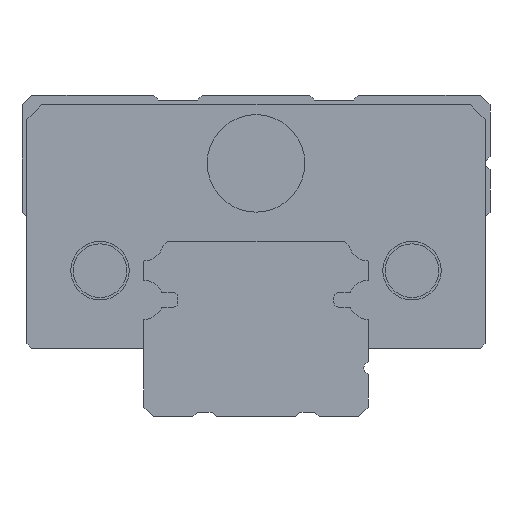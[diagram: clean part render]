
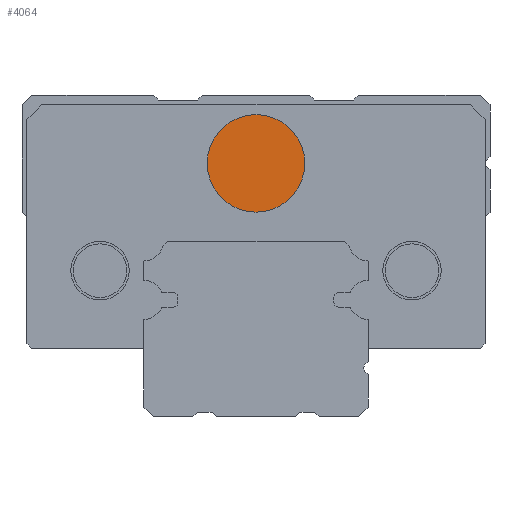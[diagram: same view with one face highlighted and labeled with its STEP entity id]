
A CAD part, left-side view. The second image highlights one B-rep face of the part: STEP entity #4064.
In plain terms, the highlighted planar face has unit normal (-1, 0, 0).
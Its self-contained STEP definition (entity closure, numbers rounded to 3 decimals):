
#4033=CARTESIAN_POINT('',(153.36,5.,26.0));
#4034=VERTEX_POINT('',#4033);
#4035=CARTESIAN_POINT('',(153.36,0.0,26.0));
#4036=DIRECTION('',(-1.0,0.0,0.0));
#4037=DIRECTION('',(0.0,-1.0,0.0));
#4038=AXIS2_PLACEMENT_3D('',#4035,#4036,#4037);
#4039=CIRCLE('',#4038,5.);
#4040=EDGE_CURVE('',#4034,#4034,#4039,.T.);
#4056=CARTESIAN_POINT('',(153.36,0.0,26.0));
#4057=DIRECTION('',(-1.0,0.0,0.0));
#4058=DIRECTION('',(0.0,0.0,1.0));
#4059=AXIS2_PLACEMENT_3D('',#4056,#4057,#4058);
#4060=PLANE('',#4059);
#4061=ORIENTED_EDGE('',*,*,#4040,.T.);
#4062=EDGE_LOOP('',(#4061));
#4063=FACE_OUTER_BOUND('',#4062,.T.);
#4064=ADVANCED_FACE('',(#4063),#4060,.T.);
